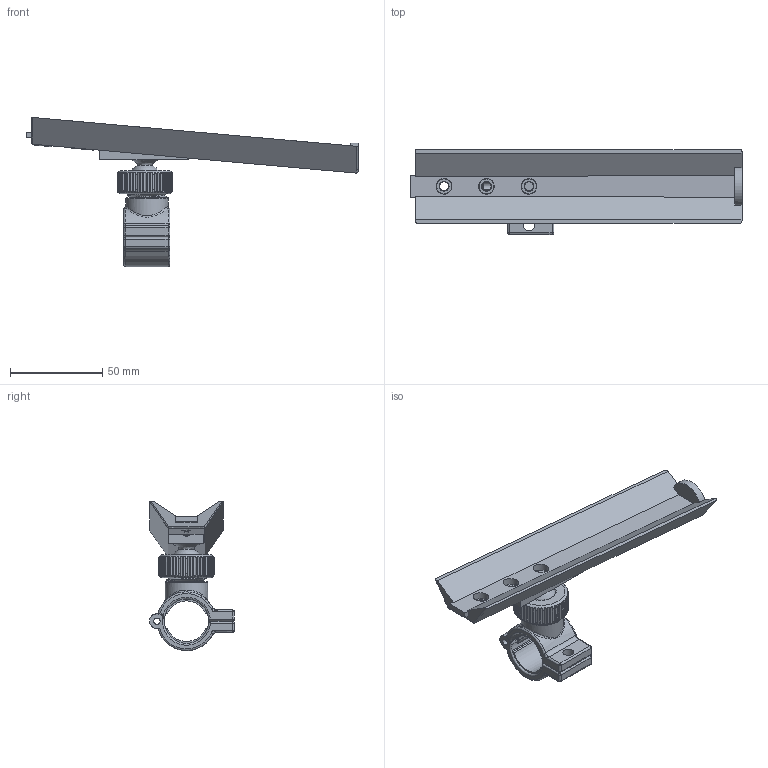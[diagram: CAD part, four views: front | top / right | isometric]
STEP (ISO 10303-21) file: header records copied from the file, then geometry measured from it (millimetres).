
FILE_DESCRIPTION(('FreeCAD Model'),'2;1');
FILE_NAME('Open CASCADE Shape Model','2025-10-29T17:13:40',(''),(''), 'Open CASCADE STEP processor 7.8','FreeCAD','Unknown');
FILE_SCHEMA(('AUTOMOTIVE_DESIGN { 1 0 10303 214 1 1 1 1 }'));
Length unit declared in the file: millimetre
Products named in the file (7): CLAMP; pose-bag; Vis moletée; sphère; Clamp partie inf; Clamp partie sup; glissière001
Assembly tree (6 placements, depth 2):
  CLAMP
    pose-bag
    Vis moletée
    sphère
    Clamp partie inf
    Clamp partie sup
    glissière001
Bounding box: 180 x 46 x 80.97 mm (x, y, z)
Volume: 70372 mm3; surface area: 35117.6 mm2
Topology: 6 solids, 7 shells, 346 faces, 960 edges, 627 vertices
Faces by surface type: cylinder 176, plane 74, bspline 59, torus 23, sphere 11, cone 3
Full cylindrical faces by diameter (mm): 3.4 x3, 4.9 x4, 6 x2, 6.34 x1, 8.5 x3, 14.933 x1, 19.302 x1, 21.765 x2, 22.639 x2, 23 x2
Entity records: 48859 total; most frequent: CARTESIAN_POINT 31853, DIRECTION 2541, ORIENTED_EDGE 1892, PCURVE 1892, DEFINITIONAL_REPRESENTATION 1892, LINE 1168, VECTOR 1168, B_SPLINE_CURVE_WITH_KNOTS 1138
